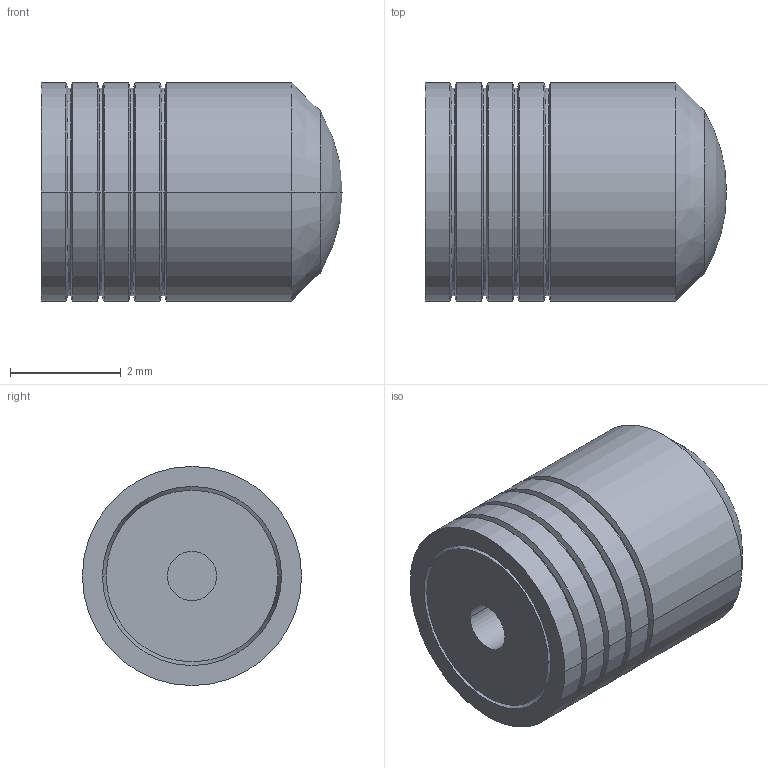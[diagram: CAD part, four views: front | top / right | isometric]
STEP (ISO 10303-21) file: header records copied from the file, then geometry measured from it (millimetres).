
FILE_DESCRIPTION(('CoCreate Modeling STEP Export'),'2;1');
FILE_NAME('PLHA1561241A.stp','2012-01-10T13:45:44',(''),(''),'CoCreate Modeling STEP processor for AP214 (Solid Model)','CoCreate Modeling 17.0 01-Apr-2010 (C) Parametric Technology GmbH','');
FILE_SCHEMA(('AUTOMOTIVE_DESIGN { 1 0 10303 214 1 1 1 1 }'));
Length unit declared in the file: millimetre
Products named in the file (1): PLHA1561241A
Bounding box: 5.44 x 3.96 x 3.96 mm (x, y, z)
Volume: 59 mm3; surface area: 104.5 mm2
Topology: 1 solids, 1 shells, 47 faces, 99 edges, 54 vertices
Faces by surface type: cylinder 22, cone 20, plane 3, sphere 2
Entity records: 1064 total; most frequent: ORIENTED_EDGE 194, CARTESIAN_POINT 147, DIRECTION 144, EDGE_CURVE 97, VERTEX_POINT 54, AXIS2_PLACEMENT_3D 51, EDGE_LOOP 49, FACE_OUTER_BOUND 47
